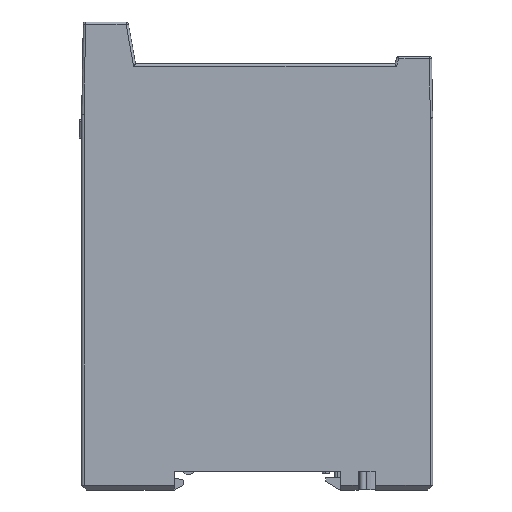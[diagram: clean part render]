
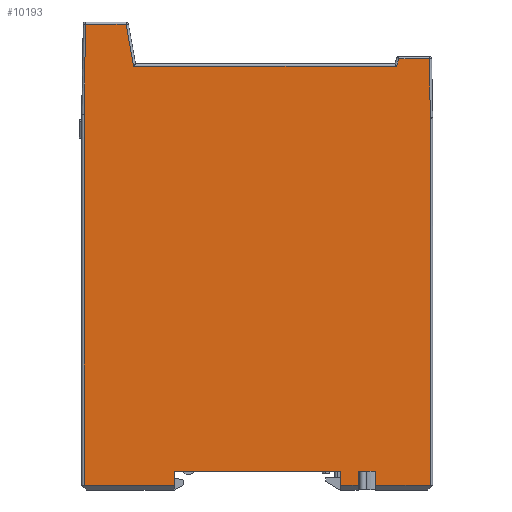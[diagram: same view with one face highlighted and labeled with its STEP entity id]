
A CAD part, left-side view. The second image highlights one B-rep face of the part: STEP entity #10193.
In plain terms, the highlighted planar face has unit normal (-1, 0, 0).
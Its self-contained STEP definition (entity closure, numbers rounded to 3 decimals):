
#868 = DIRECTION ( 'NONE',  ( 0., 0., -1. ) ) ;
#1034 = EDGE_CURVE ( 'NONE', #19983, #27641, #13886, .T. ) ;
#1214 = CARTESIAN_POINT ( 'NONE',  ( -11.25, -23.484, 40.261 ) ) ;
#1313 = VECTOR ( 'NONE', #4814, 1000. ) ;
#1332 = VERTEX_POINT ( 'NONE', #12834 ) ;
#1358 = DIRECTION ( 'NONE',  ( 0., 0.174, 0.985 ) ) ;
#1408 = CARTESIAN_POINT ( 'NONE',  ( -11.25, 50.516, -38.224 ) ) ;
#1484 = CARTESIAN_POINT ( 'NONE',  ( -11.25, -16.23, 51.373 ) ) ;
#1533 = LINE ( 'NONE', #3563, #24550 ) ;
#1603 = EDGE_CURVE ( 'NONE', #14200, #6097, #25054, .T. ) ;
#2110 = CARTESIAN_POINT ( 'NONE',  ( -11.25, -23.484, 0. ) ) ;
#2160 = EDGE_CURVE ( 'NONE', #1332, #29720, #5243, .T. ) ;
#2207 = CARTESIAN_POINT ( 'NONE',  ( -11.25, -4.184, -35.224 ) ) ;
#2410 = DIRECTION ( 'NONE',  ( 0., -0.009, 1. ) ) ;
#2669 = LINE ( 'NONE', #22325, #14133 ) ;
#2862 = DIRECTION ( 'NONE',  ( 0., 0., -1. ) ) ;
#2866 = VECTOR ( 'NONE', #4844, 1000. ) ;
#2884 = EDGE_CURVE ( 'NONE', #16017, #10155, #26806, .T. ) ;
#3209 = CARTESIAN_POINT ( 'NONE',  ( -11.25, 0., 60.276 ) ) ;
#3500 = ORIENTED_EDGE ( 'NONE', *, *, #1603, .T. ) ;
#3563 = CARTESIAN_POINT ( 'NONE',  ( -11.25, 29.956, -5.282 ) ) ;
#3787 = CARTESIAN_POINT ( 'NONE',  ( -11.25, -11.824, -39.224 ) ) ;
#3981 = CARTESIAN_POINT ( 'NONE',  ( -11.25, 31.181, -35.224 ) ) ;
#4495 = DIRECTION ( 'NONE',  ( 0., 0.017, -1. ) ) ;
#4503 = VECTOR ( 'NONE', #15804, 1000. ) ;
#4524 = VERTEX_POINT ( 'NONE', #12274 ) ;
#4814 = DIRECTION ( 'NONE',  ( 0., -1., 0. ) ) ;
#4844 = DIRECTION ( 'NONE',  ( 0., 0.342, -0.94 ) ) ;
#4904 = EDGE_CURVE ( 'NONE', #21085, #1332, #8502, .T. ) ;
#4921 = LINE ( 'NONE', #20019, #21803 ) ;
#5243 = LINE ( 'NONE', #22688, #4503 ) ;
#5541 = DIRECTION ( 'NONE',  ( 0., 1., 0. ) ) ;
#6097 = VERTEX_POINT ( 'NONE', #28738 ) ;
#6139 = LINE ( 'NONE', #3209, #11496 ) ;
#6141 = DIRECTION ( 'NONE',  ( 0., -0.035, -0.999 ) ) ;
#6232 = VERTEX_POINT ( 'NONE', #3981 ) ;
#6244 = CARTESIAN_POINT ( 'NONE',  ( -11.25, -8.184, -35.224 ) ) ;
#6270 = DIRECTION ( 'NONE',  ( 0., 1., 0. ) ) ;
#6319 = DIRECTION ( 'NONE',  ( 0., -1., 0. ) ) ;
#6401 = LINE ( 'NONE', #8975, #24711 ) ;
#6762 = LINE ( 'NONE', #6244, #18216 ) ;
#7873 = ORIENTED_EDGE ( 'NONE', *, *, #29351, .T. ) ;
#7949 = VERTEX_POINT ( 'NONE', #16889 ) ;
#8502 = LINE ( 'NONE', #2207, #13152 ) ;
#8594 = CARTESIAN_POINT ( 'NONE',  ( -11.25, -16.776, 52.873 ) ) ;
#8856 = EDGE_CURVE ( 'NONE', #26068, #25607, #21252, .T. ) ;
#8975 = CARTESIAN_POINT ( 'NONE',  ( -11.25, 0., 51.373 ) ) ;
#9041 = VECTOR ( 'NONE', #20199, 1000. ) ;
#9104 = ORIENTED_EDGE ( 'NONE', *, *, #19965, .T. ) ;
#9240 = CARTESIAN_POINT ( 'NONE',  ( -11.25, 31.193, -36.624 ) ) ;
#9626 = CARTESIAN_POINT ( 'NONE',  ( -11.25, -11.789, -38.224 ) ) ;
#9685 = PLANE ( 'NONE',  #17782 ) ;
#9843 = VERTEX_POINT ( 'NONE', #1484 ) ;
#9941 = VERTEX_POINT ( 'NONE', #8594 ) ;
#10155 = VERTEX_POINT ( 'NONE', #18732 ) ;
#10193 = ADVANCED_FACE ( 'NONE', ( #24803 ), #9685, .F. ) ;
#10194 = LINE ( 'NONE', #3787, #22447 ) ;
#10955 = ORIENTED_EDGE ( 'NONE', *, *, #2884, .T. ) ;
#10968 = CARTESIAN_POINT ( 'NONE',  ( -11.25, 0., -38.224 ) ) ;
#11261 = ORIENTED_EDGE ( 'NONE', *, *, #27380, .T. ) ;
#11316 = ORIENTED_EDGE ( 'NONE', *, *, #15335, .T. ) ;
#11347 = DIRECTION ( 'NONE',  ( 0., -0.035, -0.999 ) ) ;
#11496 = VECTOR ( 'NONE', #5541, 1000. ) ;
#11506 = ORIENTED_EDGE ( 'NONE', *, *, #25261, .T. ) ;
#12043 = CARTESIAN_POINT ( 'NONE',  ( -11.25, -8.184, -35.224 ) ) ;
#12274 = CARTESIAN_POINT ( 'NONE',  ( -11.25, 41.515, 60.276 ) ) ;
#12418 = VECTOR ( 'NONE', #29222, 1000. ) ;
#12537 = EDGE_CURVE ( 'NONE', #6097, #20296, #10194, .T. ) ;
#12834 = CARTESIAN_POINT ( 'NONE',  ( -11.25, -4.289, -38.224 ) ) ;
#12949 = CARTESIAN_POINT ( 'NONE',  ( -11.25, 31.181, -35.224 ) ) ;
#13152 = VECTOR ( 'NONE', #11347, 1000. ) ;
#13696 = ORIENTED_EDGE ( 'NONE', *, *, #20983, .T. ) ;
#13752 = CARTESIAN_POINT ( 'NONE',  ( -11.25, -8.08, -38.224 ) ) ;
#13886 = LINE ( 'NONE', #2110, #20747 ) ;
#14016 = CARTESIAN_POINT ( 'NONE',  ( -11.25, -11.684, -35.224 ) ) ;
#14133 = VECTOR ( 'NONE', #6270, 1000. ) ;
#14200 = VERTEX_POINT ( 'NONE', #12043 ) ;
#14311 = CARTESIAN_POINT ( 'NONE',  ( -11.25, 39.945, 51.373 ) ) ;
#15099 = LINE ( 'NONE', #21437, #25943 ) ;
#15232 = DIRECTION ( 'NONE',  ( 0., -1., 0. ) ) ;
#15335 = EDGE_CURVE ( 'NONE', #9941, #9843, #16501, .T. ) ;
#15804 = DIRECTION ( 'NONE',  ( 0., -1., 0. ) ) ;
#15855 = DIRECTION ( 'NONE',  ( 0., 0., 1. ) ) ;
#15896 = LINE ( 'NONE', #9240, #27462 ) ;
#16017 = VERTEX_POINT ( 'NONE', #21059 ) ;
#16501 = LINE ( 'NONE', #25461, #2866 ) ;
#16591 = DIRECTION ( 'NONE',  ( 1., 0., 0. ) ) ;
#16889 = CARTESIAN_POINT ( 'NONE',  ( -11.25, -23.264, 52.873 ) ) ;
#17006 = EDGE_CURVE ( 'NONE', #20296, #19983, #4921, .T. ) ;
#17782 = AXIS2_PLACEMENT_3D ( 'NONE', #23496, #16591, #2862 ) ;
#17803 = VECTOR ( 'NONE', #15232, 1000. ) ;
#18216 = VECTOR ( 'NONE', #24616, 1000. ) ;
#18469 = ORIENTED_EDGE ( 'NONE', *, *, #2160, .T. ) ;
#18539 = LINE ( 'NONE', #12949, #17803 ) ;
#18732 = CARTESIAN_POINT ( 'NONE',  ( -11.25, 50.516, 41.046 ) ) ;
#18743 = ORIENTED_EDGE ( 'NONE', *, *, #12537, .T. ) ;
#19042 = CARTESIAN_POINT ( 'NONE',  ( -11.25, 31.207, -38.224 ) ) ;
#19528 = EDGE_CURVE ( 'NONE', #9843, #26346, #6401, .T. ) ;
#19965 = EDGE_CURVE ( 'NONE', #6232, #21085, #18539, .T. ) ;
#19983 = VERTEX_POINT ( 'NONE', #26745 ) ;
#20019 = CARTESIAN_POINT ( 'NONE',  ( -11.25, 0., -38.224 ) ) ;
#20199 = DIRECTION ( 'NONE',  ( 0., -1., 0. ) ) ;
#20296 = VERTEX_POINT ( 'NONE', #9626 ) ;
#20747 = VECTOR ( 'NONE', #15855, 1000. ) ;
#20809 = ORIENTED_EDGE ( 'NONE', *, *, #19528, .T. ) ;
#20983 = EDGE_CURVE ( 'NONE', #7949, #9941, #2669, .T. ) ;
#21059 = CARTESIAN_POINT ( 'NONE',  ( -11.25, 50.18, 60.276 ) ) ;
#21085 = VERTEX_POINT ( 'NONE', #27361 ) ;
#21252 = LINE ( 'NONE', #10968, #9041 ) ;
#21437 = CARTESIAN_POINT ( 'NONE',  ( -11.25, 50.516, 0. ) ) ;
#21803 = VECTOR ( 'NONE', #6319, 1000. ) ;
#22066 = EDGE_CURVE ( 'NONE', #26346, #4524, #1533, .T. ) ;
#22325 = CARTESIAN_POINT ( 'NONE',  ( -11.25, 0., 52.873 ) ) ;
#22447 = VECTOR ( 'NONE', #6141, 1000. ) ;
#22688 = CARTESIAN_POINT ( 'NONE',  ( -11.25, 0., -38.224 ) ) ;
#22758 = DIRECTION ( 'NONE',  ( 0., 1., 0. ) ) ;
#22902 = CARTESIAN_POINT ( 'NONE',  ( -11.25, 51.217, 0.894 ) ) ;
#23223 = ORIENTED_EDGE ( 'NONE', *, *, #4904, .T. ) ;
#23291 = ORIENTED_EDGE ( 'NONE', *, *, #17006, .T. ) ;
#23381 = EDGE_CURVE ( 'NONE', #4524, #16017, #6139, .T. ) ;
#23496 = CARTESIAN_POINT ( 'NONE',  ( -11.25, 0., 0. ) ) ;
#24550 = VECTOR ( 'NONE', #1358, 1000. ) ;
#24616 = DIRECTION ( 'NONE',  ( 0., -0.035, 0.999 ) ) ;
#24711 = VECTOR ( 'NONE', #22758, 1000. ) ;
#24803 = FACE_OUTER_BOUND ( 'NONE', #25553, .T. ) ;
#25054 = LINE ( 'NONE', #14016, #1313 ) ;
#25261 = EDGE_CURVE ( 'NONE', #29720, #14200, #6762, .T. ) ;
#25461 = CARTESIAN_POINT ( 'NONE',  ( -11.25, 2.179, 0.793 ) ) ;
#25553 = EDGE_LOOP ( 'NONE', ( #10955, #7873, #28412, #11261, #9104, #23223, #18469, #11506, #3500, #18743, #23291, #25786, #25945, #13696, #11316, #20809, #29094, #27192 ) ) ;
#25607 = VERTEX_POINT ( 'NONE', #19042 ) ;
#25786 = ORIENTED_EDGE ( 'NONE', *, *, #1034, .T. ) ;
#25881 = EDGE_CURVE ( 'NONE', #27641, #7949, #26118, .T. ) ;
#25943 = VECTOR ( 'NONE', #868, 1000. ) ;
#25945 = ORIENTED_EDGE ( 'NONE', *, *, #25881, .T. ) ;
#26068 = VERTEX_POINT ( 'NONE', #1408 ) ;
#26089 = VECTOR ( 'NONE', #4495, 1000. ) ;
#26118 = LINE ( 'NONE', #29119, #12418 ) ;
#26346 = VERTEX_POINT ( 'NONE', #14311 ) ;
#26745 = CARTESIAN_POINT ( 'NONE',  ( -11.25, -23.484, -38.224 ) ) ;
#26806 = LINE ( 'NONE', #22902, #26089 ) ;
#27192 = ORIENTED_EDGE ( 'NONE', *, *, #23381, .T. ) ;
#27361 = CARTESIAN_POINT ( 'NONE',  ( -11.25, -4.184, -35.224 ) ) ;
#27380 = EDGE_CURVE ( 'NONE', #25607, #6232, #15896, .T. ) ;
#27462 = VECTOR ( 'NONE', #2410, 1000. ) ;
#27641 = VERTEX_POINT ( 'NONE', #1214 ) ;
#28412 = ORIENTED_EDGE ( 'NONE', *, *, #8856, .T. ) ;
#28738 = CARTESIAN_POINT ( 'NONE',  ( -11.25, -11.684, -35.224 ) ) ;
#29094 = ORIENTED_EDGE ( 'NONE', *, *, #22066, .T. ) ;
#29119 = CARTESIAN_POINT ( 'NONE',  ( -11.25, -24.18, 0.422 ) ) ;
#29222 = DIRECTION ( 'NONE',  ( 0., 0.017, 1. ) ) ;
#29351 = EDGE_CURVE ( 'NONE', #10155, #26068, #15099, .T. ) ;
#29720 = VERTEX_POINT ( 'NONE', #13752 ) ;
